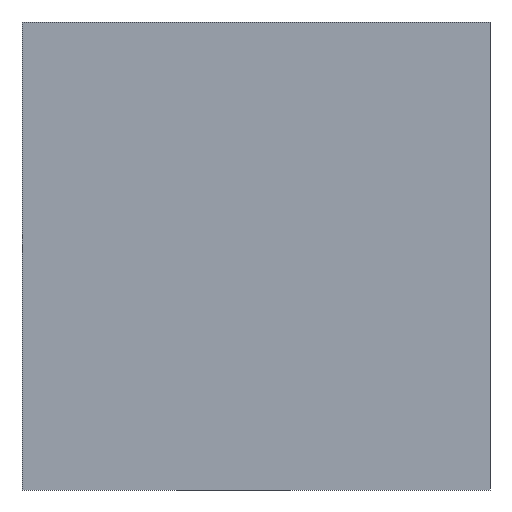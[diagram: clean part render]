
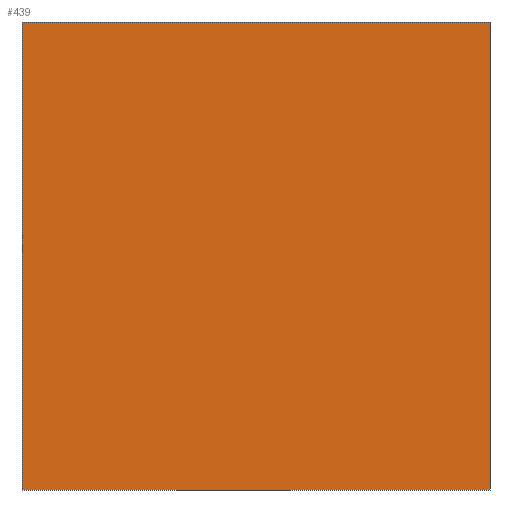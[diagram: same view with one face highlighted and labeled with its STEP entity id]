
A CAD part, front view. The second image highlights one B-rep face of the part: STEP entity #439.
In plain terms, the highlighted planar face has unit normal (0, -1, 0).
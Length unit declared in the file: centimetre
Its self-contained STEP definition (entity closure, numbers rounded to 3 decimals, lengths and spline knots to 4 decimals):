
#31 = VERTEX_POINT ( 'NONE', #34 ) ;
#34 = CARTESIAN_POINT ( 'NONE',  ( 0., 0., 1000. ) ) ;
#47 = LINE ( 'NONE', #280, #103 ) ;
#50 = LINE ( 'NONE', #173, #370 ) ;
#58 = ORIENTED_EDGE ( 'NONE', *, *, #349, .F. ) ;
#103 = VECTOR ( 'NONE', #353, 100. ) ;
#110 = EDGE_LOOP ( 'NONE', ( #386, #183, #58, #139 ) ) ;
#124 = DIRECTION ( 'NONE',  ( 0., 0., -1. ) ) ;
#134 = CARTESIAN_POINT ( 'NONE',  ( 1000., 0., 1000. ) ) ;
#135 = VERTEX_POINT ( 'NONE', #352 ) ;
#139 = ORIENTED_EDGE ( 'NONE', *, *, #168, .T. ) ;
#144 = EDGE_CURVE ( 'NONE', #364, #156, #50, .T. ) ;
#154 = CARTESIAN_POINT ( 'NONE',  ( 1000., 0., 0. ) ) ;
#156 = VERTEX_POINT ( 'NONE', #154 ) ;
#168 = EDGE_CURVE ( 'NONE', #31, #364, #287, .T. ) ;
#173 = CARTESIAN_POINT ( 'NONE',  ( 0., 0., 0. ) ) ;
#176 = PLANE ( 'NONE',  #267 ) ;
#183 = ORIENTED_EDGE ( 'NONE', *, *, #318, .F. ) ;
#218 = LINE ( 'NONE', #134, #281 ) ;
#240 = CARTESIAN_POINT ( 'NONE',  ( 0., 0., 1000. ) ) ;
#241 = FACE_OUTER_BOUND ( 'NONE', #110, .T. ) ;
#267 = AXIS2_PLACEMENT_3D ( 'NONE', #309, #423, #374 ) ;
#280 = CARTESIAN_POINT ( 'NONE',  ( 0., 0., 1000. ) ) ;
#281 = VECTOR ( 'NONE', #363, 100. ) ;
#287 = LINE ( 'NONE', #240, #337 ) ;
#309 = CARTESIAN_POINT ( 'NONE',  ( 0., 0., 1000. ) ) ;
#318 = EDGE_CURVE ( 'NONE', #135, #156, #218, .T. ) ;
#321 = DIRECTION ( 'NONE',  ( 1., 0., 0. ) ) ;
#337 = VECTOR ( 'NONE', #124, 100. ) ;
#349 = EDGE_CURVE ( 'NONE', #31, #135, #47, .T. ) ;
#352 = CARTESIAN_POINT ( 'NONE',  ( 1000., 0., 1000. ) ) ;
#353 = DIRECTION ( 'NONE',  ( 1., 0., 0. ) ) ;
#363 = DIRECTION ( 'NONE',  ( 0., 0., -1. ) ) ;
#364 = VERTEX_POINT ( 'NONE', #411 ) ;
#370 = VECTOR ( 'NONE', #321, 100. ) ;
#374 = DIRECTION ( 'NONE',  ( 0., 0., 1. ) ) ;
#386 = ORIENTED_EDGE ( 'NONE', *, *, #144, .T. ) ;
#411 = CARTESIAN_POINT ( 'NONE',  ( 0., 0., 0. ) ) ;
#423 = DIRECTION ( 'NONE',  ( 0., 1., 0. ) ) ;
#439 = ADVANCED_FACE ( 'NONE', ( #241 ), #176, .F. ) ;
